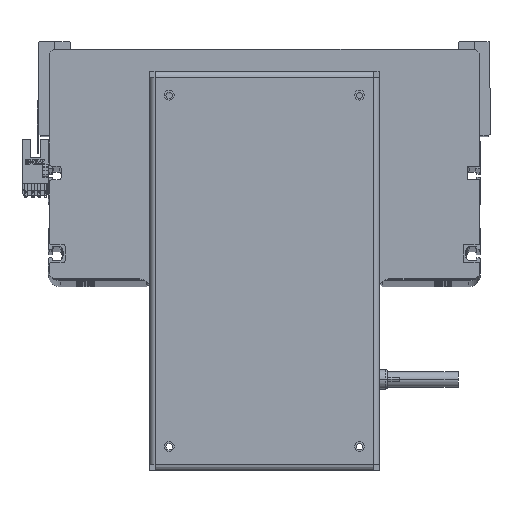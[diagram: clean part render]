
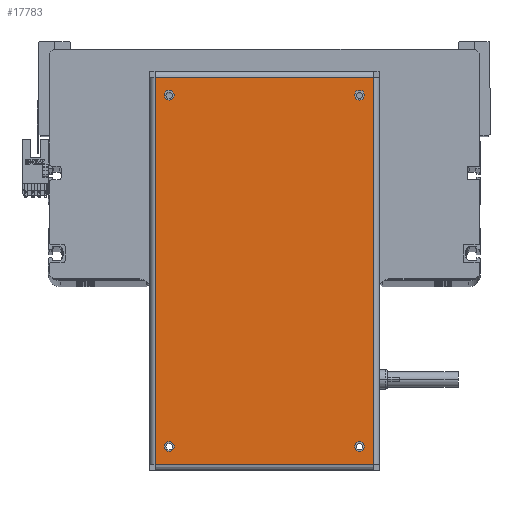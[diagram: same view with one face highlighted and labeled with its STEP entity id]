
A CAD part, top view. The second image highlights one B-rep face of the part: STEP entity #17783.
In plain terms, the highlighted planar face has unit normal (0, 0, 1).
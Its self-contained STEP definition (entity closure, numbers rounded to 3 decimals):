
#715 = DIRECTION ( 'NONE',  ( 1., 0., 0. ) ) ;
#1108 = VERTEX_POINT ( 'NONE', #25517 ) ;
#1119 = LINE ( 'NONE', #20826, #37273 ) ;
#1197 = EDGE_CURVE ( 'NONE', #34991, #21522, #18794, .T. ) ;
#2067 = CIRCLE ( 'NONE', #38659, 2.5 ) ;
#2134 = VECTOR ( 'NONE', #26963, 1000. ) ;
#2148 = AXIS2_PLACEMENT_3D ( 'NONE', #24622, #15071, #25189 ) ;
#2449 = VERTEX_POINT ( 'NONE', #40533 ) ;
#2549 = ORIENTED_EDGE ( 'NONE', *, *, #10859, .F. ) ;
#2618 = CIRCLE ( 'NONE', #12777, 2.5 ) ;
#2965 = ORIENTED_EDGE ( 'NONE', *, *, #27326, .T. ) ;
#3105 = EDGE_CURVE ( 'NONE', #18022, #7138, #2618, .T. ) ;
#3206 = CARTESIAN_POINT ( 'NONE',  ( 98.65, -55.6, 0. ) ) ;
#3271 = AXIS2_PLACEMENT_3D ( 'NONE', #18473, #8301, #24700 ) ;
#3419 = ORIENTED_EDGE ( 'NONE', *, *, #34518, .F. ) ;
#4294 = VERTEX_POINT ( 'NONE', #19280 ) ;
#4306 = DIRECTION ( 'NONE',  ( 0., -1., 0. ) ) ;
#4958 = EDGE_CURVE ( 'NONE', #1108, #5056, #42750, .T. ) ;
#5056 = VERTEX_POINT ( 'NONE', #9621 ) ;
#5578 = CARTESIAN_POINT ( 'NONE',  ( 92.05, -48.5, 0. ) ) ;
#5767 = CARTESIAN_POINT ( 'NONE',  ( -98.75, -55.6, 0. ) ) ;
#5947 = DIRECTION ( 'NONE',  ( 0., 0., 1. ) ) ;
#6223 = EDGE_LOOP ( 'NONE', ( #29264, #9112 ) ) ;
#6250 = EDGE_LOOP ( 'NONE', ( #16811, #19991, #2965, #34849 ) ) ;
#6492 = EDGE_LOOP ( 'NONE', ( #3419, #14141 ) ) ;
#6749 = DIRECTION ( 'NONE',  ( 1., 0., 0. ) ) ;
#6896 = EDGE_CURVE ( 'NONE', #25253, #2449, #7811, .T. ) ;
#6962 = EDGE_CURVE ( 'NONE', #20830, #1108, #1119, .T. ) ;
#7138 = VERTEX_POINT ( 'NONE', #27699 ) ;
#7325 = FACE_OUTER_BOUND ( 'NONE', #6250, .T. ) ;
#7463 = EDGE_CURVE ( 'NONE', #4294, #20830, #38279, .T. ) ;
#7811 = CIRCLE ( 'NONE', #36558, 2.5 ) ;
#8301 = DIRECTION ( 'NONE',  ( 0., 0., 1. ) ) ;
#8544 = DIRECTION ( 'NONE',  ( 1., 0., 0. ) ) ;
#9112 = ORIENTED_EDGE ( 'NONE', *, *, #17572, .F. ) ;
#9621 = CARTESIAN_POINT ( 'NONE',  ( 98.65, -55.6, 0. ) ) ;
#10534 = EDGE_CURVE ( 'NONE', #21868, #38846, #17958, .T. ) ;
#10859 = EDGE_CURVE ( 'NONE', #7138, #18022, #13781, .T. ) ;
#11526 = DIRECTION ( 'NONE',  ( 1., 0., 0. ) ) ;
#12777 = AXIS2_PLACEMENT_3D ( 'NONE', #38167, #31373, #8544 ) ;
#12858 = CARTESIAN_POINT ( 'NONE',  ( 89.55, 48.5, 0. ) ) ;
#12978 = CARTESIAN_POINT ( 'NONE',  ( 89.55, -48.5, 0. ) ) ;
#13390 = CARTESIAN_POINT ( 'NONE',  ( 87.05, -48.5, 0. ) ) ;
#13781 = CIRCLE ( 'NONE', #31449, 2.5 ) ;
#14141 = ORIENTED_EDGE ( 'NONE', *, *, #6896, .F. ) ;
#14876 = CARTESIAN_POINT ( 'NONE',  ( -89.55, 48.5, 0. ) ) ;
#15071 = DIRECTION ( 'NONE',  ( 0., 0., 1. ) ) ;
#15306 = ORIENTED_EDGE ( 'NONE', *, *, #3105, .F. ) ;
#16811 = ORIENTED_EDGE ( 'NONE', *, *, #6962, .T. ) ;
#17226 = DIRECTION ( 'NONE',  ( 0., 0., 1. ) ) ;
#17572 = EDGE_CURVE ( 'NONE', #38846, #21868, #27555, .T. ) ;
#17783 = ADVANCED_FACE ( 'NONE', ( #20849, #39913, #40969, #40411, #7325 ), #39577, .F. ) ;
#17958 = CIRCLE ( 'NONE', #2148, 2.5 ) ;
#18022 = VERTEX_POINT ( 'NONE', #29560 ) ;
#18473 = CARTESIAN_POINT ( 'NONE',  ( -89.55, -48.5, 0. ) ) ;
#18794 = CIRCLE ( 'NONE', #35889, 2.5 ) ;
#19147 = ORIENTED_EDGE ( 'NONE', *, *, #33360, .F. ) ;
#19280 = CARTESIAN_POINT ( 'NONE',  ( 98.65, 55.6, 0. ) ) ;
#19787 = LINE ( 'NONE', #3206, #41948 ) ;
#19991 = ORIENTED_EDGE ( 'NONE', *, *, #4958, .T. ) ;
#20052 = VECTOR ( 'NONE', #34927, 1000. ) ;
#20384 = CARTESIAN_POINT ( 'NONE',  ( -89.55, -48.5, 0. ) ) ;
#20826 = CARTESIAN_POINT ( 'NONE',  ( -98.65, 55.6, 0. ) ) ;
#20830 = VERTEX_POINT ( 'NONE', #37659 ) ;
#20849 = FACE_BOUND ( 'NONE', #6492, .T. ) ;
#21522 = VERTEX_POINT ( 'NONE', #25650 ) ;
#21868 = VERTEX_POINT ( 'NONE', #5578 ) ;
#24572 = DIRECTION ( 'NONE',  ( 0., 0., 1. ) ) ;
#24622 = CARTESIAN_POINT ( 'NONE',  ( 89.55, -48.5, 0. ) ) ;
#24700 = DIRECTION ( 'NONE',  ( 1., 0., 0. ) ) ;
#25189 = DIRECTION ( 'NONE',  ( 1., 0., 0. ) ) ;
#25253 = VERTEX_POINT ( 'NONE', #35817 ) ;
#25517 = CARTESIAN_POINT ( 'NONE',  ( -98.65, -55.6, 0. ) ) ;
#25568 = EDGE_LOOP ( 'NONE', ( #2549, #15306 ) ) ;
#25650 = CARTESIAN_POINT ( 'NONE',  ( -92.05, 48.5, 0. ) ) ;
#26326 = DIRECTION ( 'NONE',  ( 0., 1., 0. ) ) ;
#26963 = DIRECTION ( 'NONE',  ( -1., 0., 0. ) ) ;
#27326 = EDGE_CURVE ( 'NONE', #5056, #4294, #19787, .T. ) ;
#27555 = CIRCLE ( 'NONE', #40222, 2.5 ) ;
#27699 = CARTESIAN_POINT ( 'NONE',  ( 92.05, 48.5, 0. ) ) ;
#29264 = ORIENTED_EDGE ( 'NONE', *, *, #10534, .F. ) ;
#29560 = CARTESIAN_POINT ( 'NONE',  ( 87.05, 48.5, 0. ) ) ;
#29954 = ORIENTED_EDGE ( 'NONE', *, *, #1197, .F. ) ;
#31373 = DIRECTION ( 'NONE',  ( 0., 0., 1. ) ) ;
#31442 = DIRECTION ( 'NONE',  ( 0., 0., -1. ) ) ;
#31449 = AXIS2_PLACEMENT_3D ( 'NONE', #12858, #42583, #6749 ) ;
#31692 = EDGE_LOOP ( 'NONE', ( #29954, #19147 ) ) ;
#32586 = DIRECTION ( 'NONE',  ( 1., 0., 0. ) ) ;
#32645 = DIRECTION ( 'NONE',  ( 1., 0., 0. ) ) ;
#33360 = EDGE_CURVE ( 'NONE', #21522, #34991, #2067, .T. ) ;
#33438 = CIRCLE ( 'NONE', #3271, 2.5 ) ;
#34518 = EDGE_CURVE ( 'NONE', #2449, #25253, #33438, .T. ) ;
#34849 = ORIENTED_EDGE ( 'NONE', *, *, #7463, .T. ) ;
#34901 = DIRECTION ( 'NONE',  ( -1., 0., 0. ) ) ;
#34927 = DIRECTION ( 'NONE',  ( 1., 0., 0. ) ) ;
#34991 = VERTEX_POINT ( 'NONE', #38147 ) ;
#35807 = CARTESIAN_POINT ( 'NONE',  ( -89.55, 48.5, 0. ) ) ;
#35817 = CARTESIAN_POINT ( 'NONE',  ( -92.05, -48.5, 0. ) ) ;
#35889 = AXIS2_PLACEMENT_3D ( 'NONE', #35807, #5947, #32645 ) ;
#36558 = AXIS2_PLACEMENT_3D ( 'NONE', #20384, #17226, #715 ) ;
#36594 = CARTESIAN_POINT ( 'NONE',  ( 98.75, 55.6, 0. ) ) ;
#37201 = AXIS2_PLACEMENT_3D ( 'NONE', #40497, #31442, #34901 ) ;
#37273 = VECTOR ( 'NONE', #4306, 1000. ) ;
#37659 = CARTESIAN_POINT ( 'NONE',  ( -98.65, 55.6, 0. ) ) ;
#38147 = CARTESIAN_POINT ( 'NONE',  ( -87.05, 48.5, 0. ) ) ;
#38167 = CARTESIAN_POINT ( 'NONE',  ( 89.55, 48.5, 0. ) ) ;
#38279 = LINE ( 'NONE', #36594, #2134 ) ;
#38659 = AXIS2_PLACEMENT_3D ( 'NONE', #14876, #24572, #11526 ) ;
#38846 = VERTEX_POINT ( 'NONE', #13390 ) ;
#39577 = PLANE ( 'NONE',  #37201 ) ;
#39913 = FACE_BOUND ( 'NONE', #31692, .T. ) ;
#40222 = AXIS2_PLACEMENT_3D ( 'NONE', #12978, #42265, #32586 ) ;
#40411 = FACE_BOUND ( 'NONE', #25568, .T. ) ;
#40497 = CARTESIAN_POINT ( 'NONE',  ( 98.75, 58.5, 0. ) ) ;
#40533 = CARTESIAN_POINT ( 'NONE',  ( -87.05, -48.5, 0. ) ) ;
#40969 = FACE_BOUND ( 'NONE', #6223, .T. ) ;
#41948 = VECTOR ( 'NONE', #26326, 1000. ) ;
#42265 = DIRECTION ( 'NONE',  ( 0., 0., 1. ) ) ;
#42583 = DIRECTION ( 'NONE',  ( 0., 0., 1. ) ) ;
#42750 = LINE ( 'NONE', #5767, #20052 ) ;
